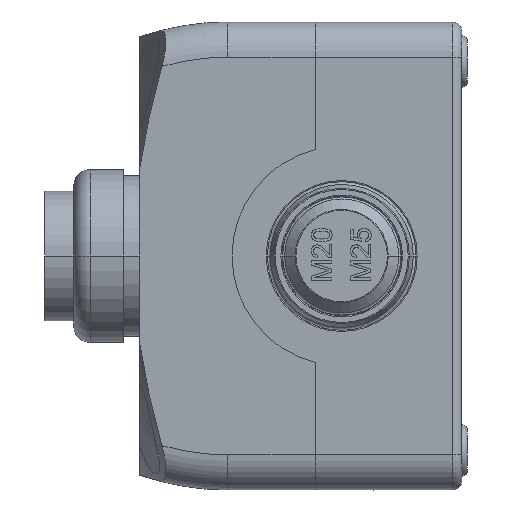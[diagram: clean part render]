
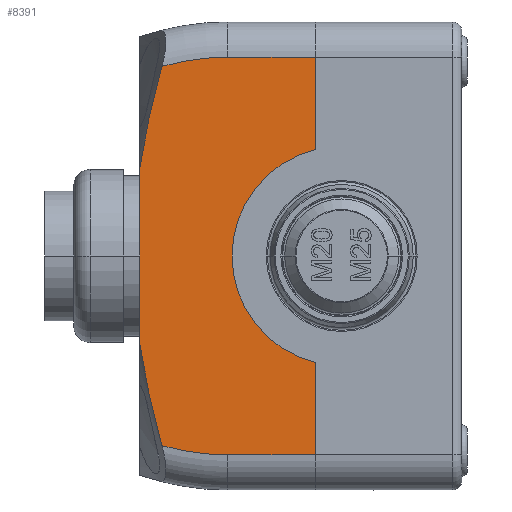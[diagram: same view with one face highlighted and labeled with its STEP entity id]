
A CAD part, left-side view. The second image highlights one B-rep face of the part: STEP entity #8391.
In plain terms, the highlighted planar face has unit normal (-1, 0, 0) as drawn and (0, 0, -1) by its records, which use the part's own axes.
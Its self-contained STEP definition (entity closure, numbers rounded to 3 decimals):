
#683 = CARTESIAN_POINT ( 'NONE',  ( -34., -15., -36. ) ) ;
#688 = CARTESIAN_POINT ( 'NONE',  ( 34., -15., -36. ) ) ;
#689 = CARTESIAN_POINT ( 'NONE',  ( -18.202, -15., -36. ) ) ;
#691 = CARTESIAN_POINT ( 'NONE',  ( 18.202, -15., -36. ) ) ;
#2201 = CARTESIAN_POINT ( 'NONE',  ( 15.124, 15., -36. ) ) ;
#2216 = CARTESIAN_POINT ( 'NONE',  ( -15.124, 15., -36. ) ) ;
#5568 = VERTEX_POINT ( 'NONE', #7658 ) ;
#5576 = VERTEX_POINT ( 'NONE', #7667 ) ;
#5579 = VERTEX_POINT ( 'NONE', #7670 ) ;
#5582 = VERTEX_POINT ( 'NONE', #7673 ) ;
#7658 = CARTESIAN_POINT ( 'NONE',  ( 32.396, 11.249, -36. ) ) ;
#7667 = CARTESIAN_POINT ( 'NONE',  ( 34., 0., -36. ) ) ;
#7670 = CARTESIAN_POINT ( 'NONE',  ( -34., 0., -36. ) ) ;
#7673 = CARTESIAN_POINT ( 'NONE',  ( -32.396, 11.249, -36. ) ) ;
#8391 = ADVANCED_FACE ( 'NONE', ( #26946 ), #26950, .T. ) ;
#8652 = EDGE_CURVE ( 'NONE', #14688, #14703, #38326, .T. ) ;
#8682 = EDGE_CURVE ( 'NONE', #10734, #10738, #38424, .T. ) ;
#8686 = EDGE_CURVE ( 'NONE', #10737, #10740, #38443, .T. ) ;
#8755 = EDGE_CURVE ( 'NONE', #10740, #10738, #36251, .T. ) ;
#8756 = EDGE_CURVE ( 'NONE', #5579, #10734, #38749, .T. ) ;
#8757 = EDGE_CURVE ( 'NONE', #5582, #5579, #36255, .T. ) ;
#8758 = EDGE_CURVE ( 'NONE', #14703, #5582, #27148, .T. ) ;
#8759 = EDGE_CURVE ( 'NONE', #14688, #5568, #27142, .T. ) ;
#8760 = EDGE_CURVE ( 'NONE', #5568, #5576, #36258, .T. ) ;
#8761 = EDGE_CURVE ( 'NONE', #5576, #10737, #38755, .T. ) ;
#10397 = EDGE_LOOP ( 'NONE', ( #11153, #11154, #11155, #11156, #11157, #11158, #11159, #11160, #11161, #11162 ) ) ;
#10734 = VERTEX_POINT ( 'NONE', #683 ) ;
#10737 = VERTEX_POINT ( 'NONE', #688 ) ;
#10738 = VERTEX_POINT ( 'NONE', #689 ) ;
#10740 = VERTEX_POINT ( 'NONE', #691 ) ;
#11153 = ORIENTED_EDGE ( 'NONE', *, *, #8755, .T. ) ;
#11154 = ORIENTED_EDGE ( 'NONE', *, *, #8682, .F. ) ;
#11155 = ORIENTED_EDGE ( 'NONE', *, *, #8756, .F. ) ;
#11156 = ORIENTED_EDGE ( 'NONE', *, *, #8757, .F. ) ;
#11157 = ORIENTED_EDGE ( 'NONE', *, *, #8758, .F. ) ;
#11158 = ORIENTED_EDGE ( 'NONE', *, *, #8652, .F. ) ;
#11159 = ORIENTED_EDGE ( 'NONE', *, *, #8759, .T. ) ;
#11160 = ORIENTED_EDGE ( 'NONE', *, *, #8760, .T. ) ;
#11161 = ORIENTED_EDGE ( 'NONE', *, *, #8761, .T. ) ;
#11162 = ORIENTED_EDGE ( 'NONE', *, *, #8686, .T. ) ;
#14688 = VERTEX_POINT ( 'NONE', #2201 ) ;
#14703 = VERTEX_POINT ( 'NONE', #2216 ) ;
#26945 = CARTESIAN_POINT ( 'NONE',  ( 6.25, 0., -36. ) ) ;
#26946 = FACE_OUTER_BOUND ( 'NONE', #10397, .T. ) ;
#26950 = PLANE ( 'NONE',  #34450 ) ;
#26951 = DIRECTION ( 'NONE',  ( 0., 0., -1. ) ) ;
#26952 = DIRECTION ( 'NONE',  ( 1., 0., 0. ) ) ;
#27142 = B_SPLINE_CURVE_WITH_KNOTS ( 'NONE', 3,
 ( #38770, #38754, #38771, #38772, #38773, #38774 ),
 .UNSPECIFIED., .F., .F.,
 ( 4, 2, 4 ),
 ( 0.04, 0.049, 0.058 ),
 .UNSPECIFIED. ) ;
#27148 = B_SPLINE_CURVE_WITH_KNOTS ( 'NONE', 3,
 ( #38760, #38761, #38766, #38767, #38768, #38769 ),
 .UNSPECIFIED., .F., .F.,
 ( 4, 2, 4 ),
 ( 0.04, 0.049, 0.058 ),
 .UNSPECIFIED. ) ;
#34450 = AXIS2_PLACEMENT_3D ( 'NONE', #26945, #26951, #26952 ) ;
#35726 = VECTOR ( 'NONE', #38334, 1000. ) ;
#35847 = VECTOR ( 'NONE', #38446, 1000. ) ;
#36155 = VECTOR ( 'NONE', #38434, 1000. ) ;
#36249 = AXIS2_PLACEMENT_3D ( 'NONE', #38777, #38778, #38779 ) ;
#36251 = CIRCLE ( 'NONE', #36254, 18.75 ) ;
#36253 = VECTOR ( 'NONE', #38759, 1000. ) ;
#36254 = AXIS2_PLACEMENT_3D ( 'NONE', #38756, #38757, #38758 ) ;
#36255 = CIRCLE ( 'NONE', #36257, 40.25 ) ;
#36256 = VECTOR ( 'NONE', #38780, 1000. ) ;
#36257 = AXIS2_PLACEMENT_3D ( 'NONE', #38762, #38763, #38764 ) ;
#36258 = CIRCLE ( 'NONE', #36249, 40.25 ) ;
#38326 = LINE ( 'NONE', #38327, #35726 ) ;
#38327 = CARTESIAN_POINT ( 'NONE',  ( 0., 15., -36. ) ) ;
#38334 = DIRECTION ( 'NONE',  ( -1., 0., 0. ) ) ;
#38411 = CARTESIAN_POINT ( 'NONE',  ( 0., -15., -36. ) ) ;
#38424 = LINE ( 'NONE', #38411, #36155 ) ;
#38434 = DIRECTION ( 'NONE',  ( 1., 0., 0. ) ) ;
#38443 = LINE ( 'NONE', #38445, #35847 ) ;
#38445 = CARTESIAN_POINT ( 'NONE',  ( 0., -15., -36. ) ) ;
#38446 = DIRECTION ( 'NONE',  ( -1., 0., 0. ) ) ;
#38749 = LINE ( 'NONE', #38750, #36253 ) ;
#38750 = CARTESIAN_POINT ( 'NONE',  ( -34., -15., -36. ) ) ;
#38754 = CARTESIAN_POINT ( 'NONE',  ( 18.056, 14.56, -36. ) ) ;
#38755 = LINE ( 'NONE', #38765, #36256 ) ;
#38756 = CARTESIAN_POINT ( 'NONE',  ( 0., -19.5, -36. ) ) ;
#38757 = DIRECTION ( 'NONE',  ( 0., 0., 1. ) ) ;
#38758 = DIRECTION ( 'NONE',  ( 1., 0., 0. ) ) ;
#38759 = DIRECTION ( 'NONE',  ( 0., -1., 0. ) ) ;
#38760 = CARTESIAN_POINT ( 'NONE',  ( -15.124, 15., -36. ) ) ;
#38761 = CARTESIAN_POINT ( 'NONE',  ( -18.056, 14.56, -36. ) ) ;
#38762 = CARTESIAN_POINT ( 'NONE',  ( 6.25, 0., -36. ) ) ;
#38763 = DIRECTION ( 'NONE',  ( 0., 0., 1. ) ) ;
#38764 = DIRECTION ( 'NONE',  ( 1., 0., 0. ) ) ;
#38765 = CARTESIAN_POINT ( 'NONE',  ( 34., -15., -36. ) ) ;
#38766 = CARTESIAN_POINT ( 'NONE',  ( -20.957, 14.01, -36. ) ) ;
#38767 = CARTESIAN_POINT ( 'NONE',  ( -26.709, 12.744, -36. ) ) ;
#38768 = CARTESIAN_POINT ( 'NONE',  ( -29.561, 12.027, -36. ) ) ;
#38769 = CARTESIAN_POINT ( 'NONE',  ( -32.396, 11.249, -36. ) ) ;
#38770 = CARTESIAN_POINT ( 'NONE',  ( 15.124, 15., -36. ) ) ;
#38771 = CARTESIAN_POINT ( 'NONE',  ( 20.957, 14.01, -36. ) ) ;
#38772 = CARTESIAN_POINT ( 'NONE',  ( 26.709, 12.744, -36. ) ) ;
#38773 = CARTESIAN_POINT ( 'NONE',  ( 29.561, 12.027, -36. ) ) ;
#38774 = CARTESIAN_POINT ( 'NONE',  ( 32.396, 11.249, -36. ) ) ;
#38777 = CARTESIAN_POINT ( 'NONE',  ( -6.25, 0., -36. ) ) ;
#38778 = DIRECTION ( 'NONE',  ( 0., 0., -1. ) ) ;
#38779 = DIRECTION ( 'NONE',  ( -1., 0., 0. ) ) ;
#38780 = DIRECTION ( 'NONE',  ( 0., -1., 0. ) ) ;
